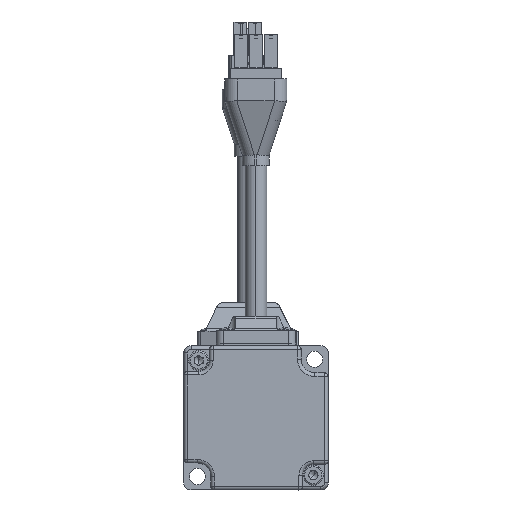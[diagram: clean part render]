
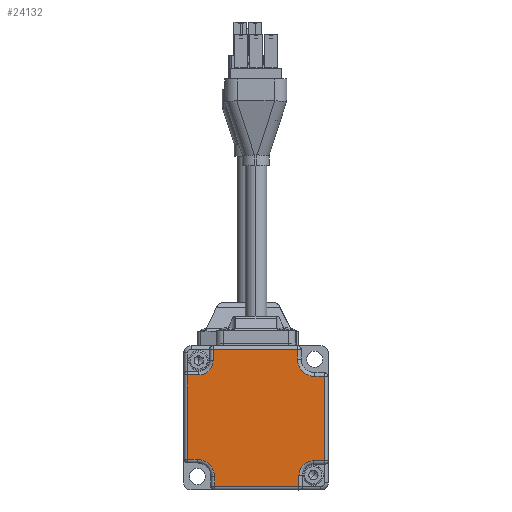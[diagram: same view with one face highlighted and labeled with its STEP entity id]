
A CAD part, front view. The second image highlights one B-rep face of the part: STEP entity #24132.
In plain terms, the highlighted planar face has unit normal (0, 1, 0).
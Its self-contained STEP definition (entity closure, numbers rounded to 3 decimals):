
#22561=DIRECTION('',(0.,0.,-1.));
#22562=VECTOR('',#22561,23.41);
#22563=CARTESIAN_POINT('',(19.,0.,11.5));
#22564=LINE('',#22563,#22562);
#22569=CARTESIAN_POINT('',(15.91,0.,
-15.91));
#22570=DIRECTION('',(0.,-1.,0.));
#22571=DIRECTION('',(0.,0.,1.));
#22572=AXIS2_PLACEMENT_3D('',#22569,#22570,#22571);
#22574=CARTESIAN_POINT('',(16.3,0.,
16.3));
#22575=DIRECTION('',(0.,-1.,0.));
#22576=DIRECTION('',(-1.,0.,0.));
#22577=AXIS2_PLACEMENT_3D('',#22574,#22575,#22576);
#22579=CARTESIAN_POINT('',(-15.91,0.,
15.91));
#22580=DIRECTION('',(0.,-1.,0.));
#22581=DIRECTION('',(0.,0.,-1.));
#22582=AXIS2_PLACEMENT_3D('',#22579,#22580,#22581);
#22584=CARTESIAN_POINT('',(-16.3,0.,
-16.3));
#22585=DIRECTION('',(0.,-1.,0.));
#22586=DIRECTION('',(1.,0.,0.));
#22587=AXIS2_PLACEMENT_3D('',#22584,#22585,#22586);
#22593=DIRECTION('',(0.,0.,1.));
#22594=VECTOR('',#22593,2.7);
#22595=CARTESIAN_POINT('',(-11.5,0.,-19.));
#22596=LINE('',#22595,#22594);
#22616=DIRECTION('',(-1.,0.,0.));
#22617=VECTOR('',#22616,2.7);
#22618=CARTESIAN_POINT('',(-16.3,0.,
-11.5));
#22619=LINE('',#22618,#22617);
#22772=DIRECTION('',(-1.,0.,0.));
#22773=VECTOR('',#22772,3.09);
#22774=CARTESIAN_POINT('',(19.,0.,
-11.91));
#22775=LINE('',#22774,#22773);
#22810=DIRECTION('',(0.,0.,-1.));
#22811=VECTOR('',#22810,3.09);
#22812=CARTESIAN_POINT('',(11.91,0.,-15.91));
#22813=LINE('',#22812,#22811);
#22837=DIRECTION('',(-1.,0.,0.));
#22838=VECTOR('',#22837,23.41);
#22839=CARTESIAN_POINT('',(11.91,0.,
-19.));
#22840=LINE('',#22839,#22838);
#22900=DIRECTION('',(0.,0.,1.));
#22901=VECTOR('',#22900,23.41);
#22902=CARTESIAN_POINT('',(-19.,0.,-11.5));
#22903=LINE('',#22902,#22901);
#22993=DIRECTION('',(1.,0.,0.));
#22994=VECTOR('',#22993,3.09);
#22995=CARTESIAN_POINT('',(-19.,0.,
11.91));
#22996=LINE('',#22995,#22994);
#23001=DIRECTION('',(0.,0.,1.));
#23002=VECTOR('',#23001,3.09);
#23003=CARTESIAN_POINT('',(-11.91,0.,15.91));
#23004=LINE('',#23003,#23002);
#23028=DIRECTION('',(1.,0.,0.));
#23029=VECTOR('',#23028,23.41);
#23030=CARTESIAN_POINT('',(-11.91,0.,
19.));
#23031=LINE('',#23030,#23029);
#23163=DIRECTION('',(0.,0.,-1.));
#23164=VECTOR('',#23163,2.7);
#23165=CARTESIAN_POINT('',(11.5,0.,19.));
#23166=LINE('',#23165,#23164);
#23190=DIRECTION('',(1.,0.,0.));
#23191=VECTOR('',#23190,2.7);
#23192=CARTESIAN_POINT('',(16.3,0.,
11.5));
#23193=LINE('',#23192,#23191);
#23820=CARTESIAN_POINT('',(-11.5,0.,-19.));
#23821=CARTESIAN_POINT('',(-11.5,0.,
-16.3));
#23822=VERTEX_POINT('',#23820);
#23823=VERTEX_POINT('',#23821);
#23824=CARTESIAN_POINT('',(11.91,0.,
-19.));
#23825=VERTEX_POINT('',#23824);
#23826=CARTESIAN_POINT('',(11.91,0.,-15.91));
#23827=VERTEX_POINT('',#23826);
#23828=CARTESIAN_POINT('',(15.91,0.,
-11.91));
#23829=VERTEX_POINT('',#23828);
#23830=CARTESIAN_POINT('',(19.,0.,
-11.91));
#23831=VERTEX_POINT('',#23830);
#23832=CARTESIAN_POINT('',(19.,0.,11.5));
#23833=VERTEX_POINT('',#23832);
#23834=CARTESIAN_POINT('',(16.3,0.,
11.5));
#23835=VERTEX_POINT('',#23834);
#23836=CARTESIAN_POINT('',(11.5,0.,
16.3));
#23837=VERTEX_POINT('',#23836);
#23838=CARTESIAN_POINT('',(11.5,0.,19.));
#23839=VERTEX_POINT('',#23838);
#23840=CARTESIAN_POINT('',(-11.91,0.,
19.));
#23841=VERTEX_POINT('',#23840);
#23842=CARTESIAN_POINT('',(-11.91,0.,15.91));
#23843=VERTEX_POINT('',#23842);
#23844=CARTESIAN_POINT('',(-15.91,0.,
11.91));
#23845=VERTEX_POINT('',#23844);
#23846=CARTESIAN_POINT('',(-19.,0.,
11.91));
#23847=VERTEX_POINT('',#23846);
#23848=CARTESIAN_POINT('',(-19.,0.,-11.5));
#23849=VERTEX_POINT('',#23848);
#23850=CARTESIAN_POINT('',(-16.3,0.,
-11.5));
#23851=VERTEX_POINT('',#23850);
#24094=CARTESIAN_POINT('',(0.,0.,0.));
#24095=DIRECTION('',(0.,1.,0.));
#24096=DIRECTION('',(0.,0.,1.));
#24097=AXIS2_PLACEMENT_3D('',#24094,#24095,#24096);
#24098=PLANE('',#24097);
#24100=ORIENTED_EDGE('',*,*,#24099,.F.);
#24102=ORIENTED_EDGE('',*,*,#24101,.F.);
#24104=ORIENTED_EDGE('',*,*,#24103,.F.);
#24106=ORIENTED_EDGE('',*,*,#24105,.F.);
#24108=ORIENTED_EDGE('',*,*,#24107,.F.);
#24109=ORIENTED_EDGE('',*,*,#24084,.F.);
#24111=ORIENTED_EDGE('',*,*,#24110,.F.);
#24113=ORIENTED_EDGE('',*,*,#24112,.F.);
#24115=ORIENTED_EDGE('',*,*,#24114,.F.);
#24117=ORIENTED_EDGE('',*,*,#24116,.F.);
#24119=ORIENTED_EDGE('',*,*,#24118,.F.);
#24121=ORIENTED_EDGE('',*,*,#24120,.F.);
#24123=ORIENTED_EDGE('',*,*,#24122,.F.);
#24125=ORIENTED_EDGE('',*,*,#24124,.F.);
#24127=ORIENTED_EDGE('',*,*,#24126,.F.);
#24129=ORIENTED_EDGE('',*,*,#24128,.F.);
#24130=EDGE_LOOP('',(#24100,#24102,#24104,#24106,#24108,#24109,#24111,#24113,
#24115,#24117,#24119,#24121,#24123,#24125,#24127,#24129));
#24131=FACE_OUTER_BOUND('',#24130,.F.);
#24132=ADVANCED_FACE('',(#24131),#24098,.T.);
#22573=CIRCLE('',#22572,4.);
#22578=CIRCLE('',#22577,4.8);
#22583=CIRCLE('',#22582,4.);
#22588=CIRCLE('',#22587,4.8);
#24084=EDGE_CURVE('',#23833,#23831,#22564,.T.);
#24099=EDGE_CURVE('',#23822,#23823,#22596,.T.);
#24101=EDGE_CURVE('',#23825,#23822,#22840,.T.);
#24103=EDGE_CURVE('',#23827,#23825,#22813,.T.);
#24105=EDGE_CURVE('',#23829,#23827,#22573,.T.);
#24107=EDGE_CURVE('',#23831,#23829,#22775,.T.);
#24110=EDGE_CURVE('',#23835,#23833,#23193,.T.);
#24112=EDGE_CURVE('',#23837,#23835,#22578,.T.);
#24114=EDGE_CURVE('',#23839,#23837,#23166,.T.);
#24116=EDGE_CURVE('',#23841,#23839,#23031,.T.);
#24118=EDGE_CURVE('',#23843,#23841,#23004,.T.);
#24120=EDGE_CURVE('',#23845,#23843,#22583,.T.);
#24122=EDGE_CURVE('',#23847,#23845,#22996,.T.);
#24124=EDGE_CURVE('',#23849,#23847,#22903,.T.);
#24126=EDGE_CURVE('',#23851,#23849,#22619,.T.);
#24128=EDGE_CURVE('',#23823,#23851,#22588,.T.);
